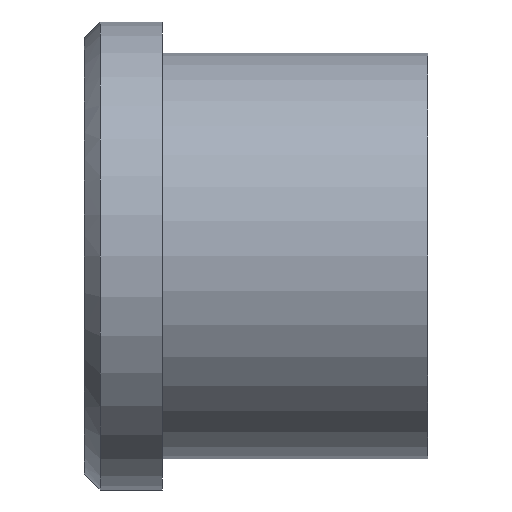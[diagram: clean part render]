
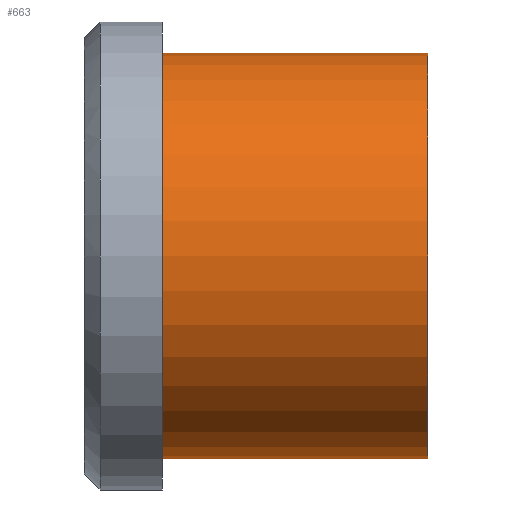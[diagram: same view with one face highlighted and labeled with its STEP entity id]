
A CAD part, front view. The second image highlights one B-rep face of the part: STEP entity #663.
In plain terms, the highlighted cylindrical face has radius 13 mm (diameter 26 mm), a partial arc.
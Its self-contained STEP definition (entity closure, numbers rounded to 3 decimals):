
#501=CARTESIAN_POINT('Vertex',(0.,0.,-13.)) ;
#506=CARTESIAN_POINT('Axis2P3D Location',(0.,0.,0.)) ;
#510=CARTESIAN_POINT('Vertex',(0.,-13.,0.)) ;
#513=CARTESIAN_POINT('Axis2P3D Location',(0.,0.,0.)) ;
#517=CARTESIAN_POINT('Vertex',(0.,0.,13.)) ;
#603=CARTESIAN_POINT('Line Origine',(17.,0.,13.)) ;
#607=CARTESIAN_POINT('Vertex',(17.,0.,13.)) ;
#621=CARTESIAN_POINT('Vertex',(17.,0.,-13.)) ;
#624=CARTESIAN_POINT('Line Origine',(17.,0.,-13.)) ;
#638=CARTESIAN_POINT('Axis2P3D Location',(17.,0.,0.)) ;
#643=CARTESIAN_POINT('Axis2P3D Location',(17.,0.,0.)) ;
#647=CARTESIAN_POINT('Vertex',(17.,-13.,0.)) ;
#650=CARTESIAN_POINT('Axis2P3D Location',(17.,0.,0.)) ;
#507=DIRECTION('Axis2P3D Direction',(1.,0.,-0.)) ;
#514=DIRECTION('Axis2P3D Direction',(1.,0.,-0.)) ;
#604=DIRECTION('Vector Direction',(-1.,0.,0.)) ;
#625=DIRECTION('Vector Direction',(-1.,0.,0.)) ;
#639=DIRECTION('Axis2P3D Direction',(-1.,-0.,-0.)) ;
#640=DIRECTION('Axis2P3D XDirection',(0.,0.,-1.)) ;
#644=DIRECTION('Axis2P3D Direction',(-1.,-0.,-0.)) ;
#651=DIRECTION('Axis2P3D Direction',(-1.,-0.,-0.)) ;
#508=AXIS2_PLACEMENT_3D('Circle Axis2P3D',#506,#507,$) ;
#515=AXIS2_PLACEMENT_3D('Circle Axis2P3D',#513,#514,$) ;
#641=AXIS2_PLACEMENT_3D('Cylinder Axis2P3D',#638,#639,#640) ;
#645=AXIS2_PLACEMENT_3D('Circle Axis2P3D',#643,#644,$) ;
#652=AXIS2_PLACEMENT_3D('Circle Axis2P3D',#650,#651,$) ;
#656=ORIENTED_EDGE('',*,*,#628,.T.) ;
#657=ORIENTED_EDGE('',*,*,#649,.F.) ;
#658=ORIENTED_EDGE('',*,*,#654,.F.) ;
#659=ORIENTED_EDGE('',*,*,#609,.T.) ;
#660=ORIENTED_EDGE('',*,*,#519,.T.) ;
#661=ORIENTED_EDGE('',*,*,#512,.T.) ;
#605=VECTOR('Line Direction',#604,1.) ;
#626=VECTOR('Line Direction',#625,1.) ;
#663=ADVANCED_FACE('353-18X22',(#662),#642,.T.) ;
#509=CIRCLE('generated circle',#508,13.) ;
#516=CIRCLE('generated circle',#515,13.) ;
#646=CIRCLE('generated circle',#645,13.) ;
#653=CIRCLE('generated circle',#652,13.) ;
#642=CYLINDRICAL_SURFACE('generated cylinder',#641,13.) ;
#512=EDGE_CURVE('',#511,#502,#509,.T.) ;
#519=EDGE_CURVE('',#518,#511,#516,.T.) ;
#609=EDGE_CURVE('',#608,#518,#606,.T.) ;
#628=EDGE_CURVE('',#502,#622,#627,.F.) ;
#649=EDGE_CURVE('',#648,#622,#646,.F.) ;
#654=EDGE_CURVE('',#608,#648,#653,.F.) ;
#655=EDGE_LOOP('',(#656,#657,#658,#659,#660,#661)) ;
#662=FACE_OUTER_BOUND('',#655,.T.) ;
#606=LINE('Line',#603,#605) ;
#627=LINE('Line',#624,#626) ;
#502=VERTEX_POINT('',#501) ;
#511=VERTEX_POINT('',#510) ;
#518=VERTEX_POINT('',#517) ;
#608=VERTEX_POINT('',#607) ;
#622=VERTEX_POINT('',#621) ;
#648=VERTEX_POINT('',#647) ;
